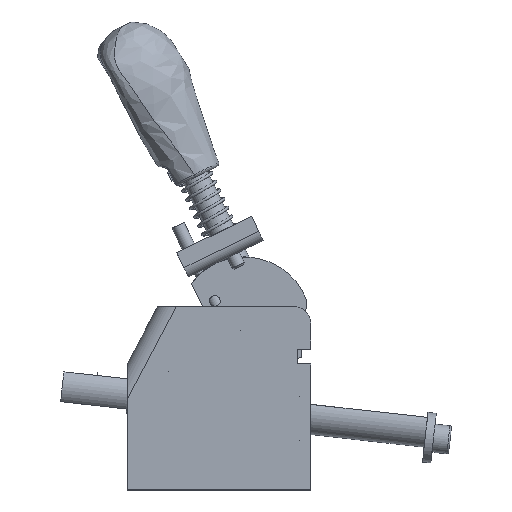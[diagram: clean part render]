
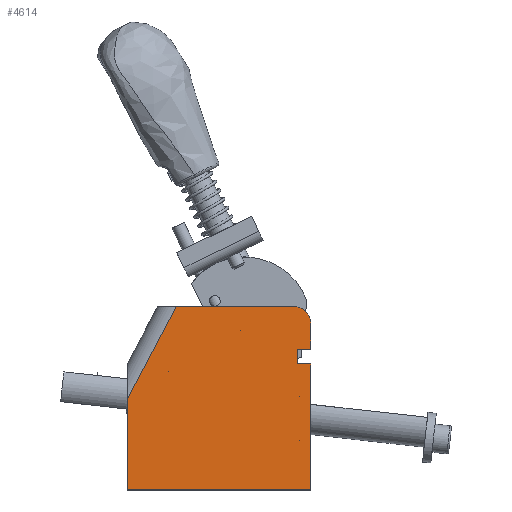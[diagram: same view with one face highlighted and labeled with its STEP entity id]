
A CAD part, top view. The second image highlights one B-rep face of the part: STEP entity #4614.
In plain terms, the highlighted planar face has unit normal (0, 0, 1).
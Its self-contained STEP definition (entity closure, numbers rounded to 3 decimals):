
#367=FACE_BOUND('',#934,.T.);
#368=FACE_BOUND('',#935,.T.);
#369=FACE_BOUND('',#936,.T.);
#370=FACE_BOUND('',#937,.T.);
#415=CIRCLE('',#5088,0.005);
#417=CIRCLE('',#5092,0.005);
#418=CIRCLE('',#5093,0.005);
#421=CIRCLE('',#5097,0.005);
#422=CIRCLE('',#5098,0.005);
#427=CIRCLE('',#5106,0.005);
#428=CIRCLE('',#5107,0.005);
#436=CIRCLE('',#5132,5.);
#661=FACE_OUTER_BOUND('',#933,.T.);
#933=EDGE_LOOP('',(#3283,#3284,#3285,#3286,#3287,#3288,#3289,#3290,#3291,
#3292));
#934=EDGE_LOOP('',(#3293));
#935=EDGE_LOOP('',(#3294,#3295));
#936=EDGE_LOOP('',(#3296,#3297));
#937=EDGE_LOOP('',(#3298,#3299));
#1195=LINE('',#6862,#1556);
#1203=LINE('',#6878,#1564);
#1208=LINE('',#6889,#1569);
#1230=LINE('',#6944,#1591);
#1241=LINE('',#7115,#1602);
#1248=LINE('',#7256,#1609);
#1251=LINE('',#7263,#1612);
#1255=LINE('',#7273,#1616);
#1258=LINE('',#7280,#1619);
#1556=VECTOR('',#5550,10.);
#1564=VECTOR('',#5562,10.);
#1569=VECTOR('',#5571,10.);
#1591=VECTOR('',#5615,10.);
#1602=VECTOR('',#5682,10.);
#1609=VECTOR('',#5713,10.);
#1612=VECTOR('',#5720,10.);
#1616=VECTOR('',#5732,10.);
#1619=VECTOR('',#5741,10.);
#1917=VERTEX_POINT('',#6859);
#1918=VERTEX_POINT('',#6861);
#1924=VERTEX_POINT('',#6876);
#1928=VERTEX_POINT('',#6888);
#1950=VERTEX_POINT('',#6942);
#1954=VERTEX_POINT('',#6988);
#1956=VERTEX_POINT('',#6996);
#1957=VERTEX_POINT('',#6997);
#1960=VERTEX_POINT('',#7006);
#1961=VERTEX_POINT('',#7007);
#1968=VERTEX_POINT('',#7062);
#1969=VERTEX_POINT('',#7063);
#1972=VERTEX_POINT('',#7111);
#1974=VERTEX_POINT('',#7114);
#1985=VERTEX_POINT('',#7249);
#1988=VERTEX_POINT('',#7254);
#1993=VERTEX_POINT('',#7276);
#2383=EDGE_CURVE('',#1918,#1917,#1195,.T.);
#2391=EDGE_CURVE('',#1917,#1924,#1203,.T.);
#2396=EDGE_CURVE('',#1928,#1918,#1208,.T.);
#2424=EDGE_CURVE('',#1950,#1924,#1230,.T.);
#2429=EDGE_CURVE('',#1954,#1954,#415,.T.);
#2433=EDGE_CURVE('',#1956,#1957,#417,.T.);
#2434=EDGE_CURVE('',#1957,#1956,#418,.T.);
#2438=EDGE_CURVE('',#1960,#1961,#421,.T.);
#2439=EDGE_CURVE('',#1961,#1960,#422,.T.);
#2449=EDGE_CURVE('',#1968,#1969,#427,.T.);
#2450=EDGE_CURVE('',#1969,#1968,#428,.T.);
#2458=EDGE_CURVE('',#1974,#1972,#1241,.T.);
#2478=EDGE_CURVE('',#1988,#1985,#1248,.T.);
#2482=EDGE_CURVE('',#1974,#1988,#1251,.T.);
#2487=EDGE_CURVE('',#1928,#1972,#1255,.T.);
#2490=EDGE_CURVE('',#1993,#1950,#436,.T.);
#2491=EDGE_CURVE('',#1985,#1993,#1258,.T.);
#3283=ORIENTED_EDGE('',*,*,#2391,.T.);
#3284=ORIENTED_EDGE('',*,*,#2424,.F.);
#3285=ORIENTED_EDGE('',*,*,#2490,.F.);
#3286=ORIENTED_EDGE('',*,*,#2491,.F.);
#3287=ORIENTED_EDGE('',*,*,#2478,.F.);
#3288=ORIENTED_EDGE('',*,*,#2482,.F.);
#3289=ORIENTED_EDGE('',*,*,#2458,.T.);
#3290=ORIENTED_EDGE('',*,*,#2487,.F.);
#3291=ORIENTED_EDGE('',*,*,#2396,.T.);
#3292=ORIENTED_EDGE('',*,*,#2383,.T.);
#3293=ORIENTED_EDGE('',*,*,#2429,.T.);
#3294=ORIENTED_EDGE('',*,*,#2433,.T.);
#3295=ORIENTED_EDGE('',*,*,#2434,.T.);
#3296=ORIENTED_EDGE('',*,*,#2438,.T.);
#3297=ORIENTED_EDGE('',*,*,#2439,.T.);
#3298=ORIENTED_EDGE('',*,*,#2449,.T.);
#3299=ORIENTED_EDGE('',*,*,#2450,.T.);
#4471=PLANE('',#5137);
#4614=ADVANCED_FACE('',(#661,#367,#368,#369,#370),#4471,.T.);
#5088=AXIS2_PLACEMENT_3D('',#6989,#5623,#5624);
#5092=AXIS2_PLACEMENT_3D('',#6998,#5633,#5634);
#5093=AXIS2_PLACEMENT_3D('',#6999,#5635,#5636);
#5097=AXIS2_PLACEMENT_3D('',#7008,#5644,#5645);
#5098=AXIS2_PLACEMENT_3D('',#7009,#5646,#5647);
#5106=AXIS2_PLACEMENT_3D('',#7064,#5665,#5666);
#5107=AXIS2_PLACEMENT_3D('',#7065,#5667,#5668);
#5132=AXIS2_PLACEMENT_3D('',#7278,#5737,#5738);
#5137=AXIS2_PLACEMENT_3D('',#7287,#5750,#5751);
#5550=DIRECTION('',(0.,1.,0.));
#5562=DIRECTION('',(1.,0.,0.));
#5571=DIRECTION('',(-1.,0.,0.));
#5615=DIRECTION('',(0.,-1.,0.));
#5623=DIRECTION('center_axis',(0.,0.,-1.));
#5624=DIRECTION('ref_axis',(-1.,0.,0.));
#5633=DIRECTION('center_axis',(0.,0.,-1.));
#5634=DIRECTION('ref_axis',(1.,0.,0.));
#5635=DIRECTION('center_axis',(0.,0.,-1.));
#5636=DIRECTION('ref_axis',(1.,0.,0.));
#5644=DIRECTION('center_axis',(0.,0.,-1.));
#5645=DIRECTION('ref_axis',(1.,0.,0.));
#5646=DIRECTION('center_axis',(0.,0.,-1.));
#5647=DIRECTION('ref_axis',(1.,0.,0.));
#5665=DIRECTION('center_axis',(0.,0.,-1.));
#5666=DIRECTION('ref_axis',(1.,0.,0.));
#5667=DIRECTION('center_axis',(0.,0.,-1.));
#5668=DIRECTION('ref_axis',(1.,0.,0.));
#5682=DIRECTION('',(1.,0.,0.));
#5713=DIRECTION('',(0.468,0.884,0.));
#5720=DIRECTION('',(0.,1.,0.));
#5732=DIRECTION('',(0.,-1.,0.));
#5737=DIRECTION('center_axis',(0.,0.,-1.));
#5738=DIRECTION('ref_axis',(1.,0.,0.));
#5741=DIRECTION('',(1.,0.,0.));
#5750=DIRECTION('center_axis',(0.,0.,1.));
#5751=DIRECTION('ref_axis',(1.,0.,0.));
#6859=CARTESIAN_POINT('',(48.194,18.865,20.));
#6861=CARTESIAN_POINT('',(48.194,14.465,20.));
#6862=CARTESIAN_POINT('',(48.194,12.924,20.));
#6876=CARTESIAN_POINT('',(52.194,18.865,20.));
#6878=CARTESIAN_POINT('',(38.882,18.865,20.));
#6888=CARTESIAN_POINT('',(52.194,14.465,20.));
#6889=CARTESIAN_POINT('',(36.882,14.465,20.));
#6942=CARTESIAN_POINT('',(52.194,26.665,20.));
#6944=CARTESIAN_POINT('',(52.194,-15.335,20.));
#6988=CARTESIAN_POINT('',(30.999,24.665,20.));
#6989=CARTESIAN_POINT('Origin',(30.994,24.665,20.));
#6996=CARTESIAN_POINT('',(48.699,-8.415,20.));
#6997=CARTESIAN_POINT('',(48.689,-8.415,20.));
#6998=CARTESIAN_POINT('Origin',(48.694,-8.415,20.));
#6999=CARTESIAN_POINT('Origin',(48.694,-8.415,20.));
#7006=CARTESIAN_POINT('',(48.699,4.765,20.));
#7007=CARTESIAN_POINT('',(48.689,4.765,20.));
#7008=CARTESIAN_POINT('Origin',(48.694,4.765,20.));
#7009=CARTESIAN_POINT('Origin',(48.694,4.765,20.));
#7062=CARTESIAN_POINT('',(9.399,12.165,20.));
#7063=CARTESIAN_POINT('',(9.389,12.165,20.));
#7064=CARTESIAN_POINT('Origin',(9.394,12.165,20.));
#7065=CARTESIAN_POINT('Origin',(9.394,12.165,20.));
#7111=CARTESIAN_POINT('',(52.194,-23.335,20.));
#7114=CARTESIAN_POINT('',(-2.806,-23.335,20.));
#7115=CARTESIAN_POINT('',(52.194,-23.335,20.));
#7249=CARTESIAN_POINT('',(11.852,31.665,20.));
#7254=CARTESIAN_POINT('',(-2.806,3.979,20.));
#7256=CARTESIAN_POINT('',(3.131,15.192,20.));
#7263=CARTESIAN_POINT('',(-2.806,14.665,20.));
#7273=CARTESIAN_POINT('',(52.194,-15.335,20.));
#7276=CARTESIAN_POINT('',(47.194,31.665,20.));
#7278=CARTESIAN_POINT('Origin',(47.194,26.665,20.));
#7280=CARTESIAN_POINT('',(47.194,31.665,20.));
#7287=CARTESIAN_POINT('Origin',(25.57,6.982,20.));
